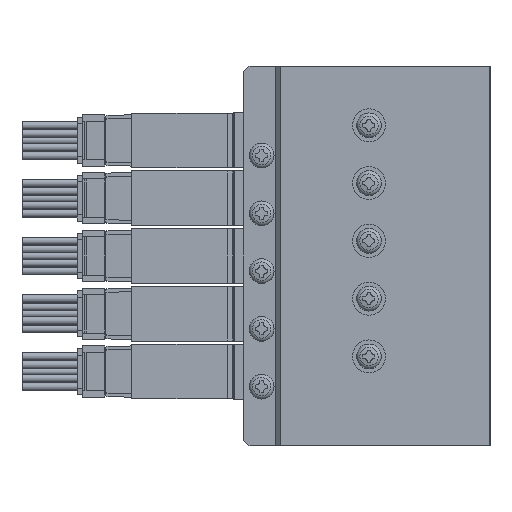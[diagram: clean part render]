
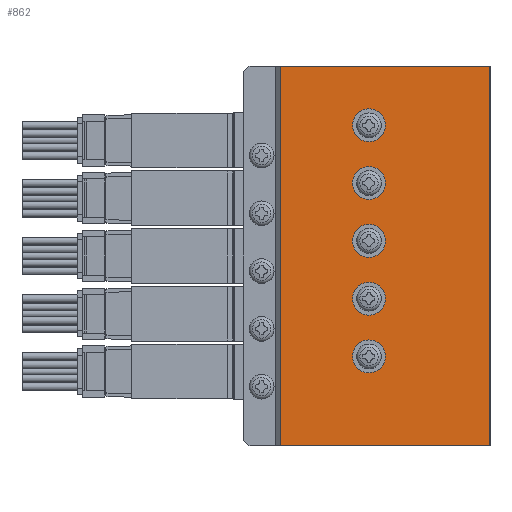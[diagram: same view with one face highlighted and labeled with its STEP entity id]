
A CAD part, left-side view. The second image highlights one B-rep face of the part: STEP entity #862.
In plain terms, the highlighted planar face has unit normal (-1, 0, 0) as drawn and (1, 0, 0) by its records, which use the part's own axes.
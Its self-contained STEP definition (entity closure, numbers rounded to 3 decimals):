
#862=ADVANCED_FACE('',(#1921,#1922,#1923,#1924,#1925,#1926),#1927,.F.);
#1921=FACE_OUTER_BOUND('',#3288,.T.);
#1922=FACE_BOUND('',#3289,.T.);
#1923=FACE_BOUND('',#3290,.T.);
#1924=FACE_BOUND('',#3291,.T.);
#1925=FACE_BOUND('',#3292,.T.);
#1926=FACE_BOUND('',#3293,.T.);
#1927=PLANE('',#3294);
#3288=EDGE_LOOP('',(#6893,#6894,#6895,#6896));
#3289=EDGE_LOOP('',(#6897));
#3290=EDGE_LOOP('',(#6898));
#3291=EDGE_LOOP('',(#6899));
#3292=EDGE_LOOP('',(#6900));
#3293=EDGE_LOOP('',(#6901));
#3294=AXIS2_PLACEMENT_3D('',#6902,#6903,#6904);
#6893=ORIENTED_EDGE('',*,*,#9298,.T.);
#6894=ORIENTED_EDGE('',*,*,#9299,.F.);
#6895=ORIENTED_EDGE('',*,*,#9118,.F.);
#6896=ORIENTED_EDGE('',*,*,#9300,.T.);
#6897=ORIENTED_EDGE('',*,*,#9301,.F.);
#6898=ORIENTED_EDGE('',*,*,#9302,.F.);
#6899=ORIENTED_EDGE('',*,*,#9303,.F.);
#6900=ORIENTED_EDGE('',*,*,#9304,.F.);
#6901=ORIENTED_EDGE('',*,*,#9305,.F.);
#6902=CARTESIAN_POINT('',(19.0,0.0,34.5));
#6903=DIRECTION('',(-1.0,0.0,0.0));
#6904=DIRECTION('',(0.0,0.0,1.0));
#9118=EDGE_CURVE('',#11104,#11106,#11107,.T.);
#9298=EDGE_CURVE('',#11440,#11441,#11442,.T.);
#9299=EDGE_CURVE('',#11106,#11441,#11443,.T.);
#9300=EDGE_CURVE('',#11104,#11440,#11444,.T.);
#9301=EDGE_CURVE('',#11445,#11445,#11446,.T.);
#9302=EDGE_CURVE('',#11447,#11447,#11448,.T.);
#9303=EDGE_CURVE('',#11449,#11449,#11450,.T.);
#9304=EDGE_CURVE('',#11451,#11451,#11452,.T.);
#9305=EDGE_CURVE('',#11453,#11453,#11454,.T.);
#11104=VERTEX_POINT('',#14605);
#11106=VERTEX_POINT('',#14608);
#11107=LINE('',#14609,#14610);
#11440=VERTEX_POINT('',#15348);
#11441=VERTEX_POINT('',#15349);
#11442=LINE('',#15350,#15351);
#11443=LINE('',#15352,#15353);
#11444=LINE('',#15354,#15355);
#11445=VERTEX_POINT('',#15356);
#11446=CIRCLE('',#15357,3.0);
#11447=VERTEX_POINT('',#15358);
#11448=CIRCLE('',#15359,3.0);
#11449=VERTEX_POINT('',#15360);
#11450=CIRCLE('',#15361,3.0);
#11451=VERTEX_POINT('',#15362);
#11452=CIRCLE('',#15363,3.0);
#11453=VERTEX_POINT('',#15364);
#11454=CIRCLE('',#15365,3.0);
#14605=CARTESIAN_POINT('',(19.0,0.0,34.5));
#14608=CARTESIAN_POINT('',(19.0,38.0,34.5));
#14609=CARTESIAN_POINT('',(19.0,0.0,34.5));
#14610=VECTOR('',#17517,1.0);
#15348=CARTESIAN_POINT('',(19.0,0.0,-34.5));
#15349=CARTESIAN_POINT('',(19.0,38.0,-34.5));
#15350=CARTESIAN_POINT('',(19.0,0.0,-34.5));
#15351=VECTOR('',#17822,1.0);
#15352=CARTESIAN_POINT('',(19.0,38.0,34.5));
#15353=VECTOR('',#17823,1.0);
#15354=CARTESIAN_POINT('',(19.0,0.0,34.5));
#15355=VECTOR('',#17824,1.0);
#15356=CARTESIAN_POINT('',(19.0,22.0,15.25));
#15357=AXIS2_PLACEMENT_3D('',#17825,#17826,#17827);
#15358=CARTESIAN_POINT('',(19.0,22.0,-26.75));
#15359=AXIS2_PLACEMENT_3D('',#17828,#17829,#17830);
#15360=CARTESIAN_POINT('',(19.0,22.0,-16.25));
#15361=AXIS2_PLACEMENT_3D('',#17831,#17832,#17833);
#15362=CARTESIAN_POINT('',(19.0,22.0,-5.75));
#15363=AXIS2_PLACEMENT_3D('',#17834,#17835,#17836);
#15364=CARTESIAN_POINT('',(19.0,22.0,4.75));
#15365=AXIS2_PLACEMENT_3D('',#17837,#17838,#17839);
#17517=DIRECTION('',(0.0,1.0,0.0));
#17822=DIRECTION('',(0.0,1.0,0.0));
#17823=DIRECTION('',(0.0,0.0,-1.0));
#17824=DIRECTION('',(0.0,0.0,-1.0));
#17825=CARTESIAN_POINT('',(19.0,22.0,18.25));
#17826=DIRECTION('',(1.0,0.0,0.0));
#17827=DIRECTION('',(0.0,0.0,-1.0));
#17828=CARTESIAN_POINT('',(19.0,22.0,-23.75));
#17829=DIRECTION('',(1.0,0.0,0.0));
#17830=DIRECTION('',(0.0,0.0,-1.0));
#17831=CARTESIAN_POINT('',(19.0,22.0,-13.25));
#17832=DIRECTION('',(1.0,0.0,0.0));
#17833=DIRECTION('',(0.0,0.0,-1.0));
#17834=CARTESIAN_POINT('',(19.0,22.0,-2.75));
#17835=DIRECTION('',(1.0,0.0,0.0));
#17836=DIRECTION('',(0.0,0.0,-1.0));
#17837=CARTESIAN_POINT('',(19.0,22.0,7.75));
#17838=DIRECTION('',(1.0,0.0,0.0));
#17839=DIRECTION('',(0.0,0.0,-1.0));
